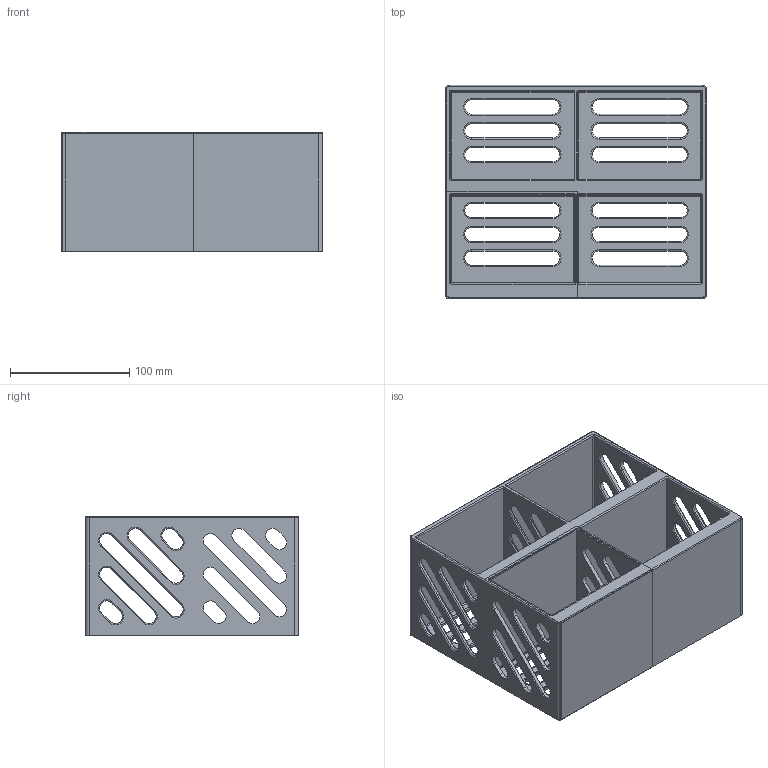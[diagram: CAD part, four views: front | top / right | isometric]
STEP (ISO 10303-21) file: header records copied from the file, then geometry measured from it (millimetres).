
FILE_DESCRIPTION((''),'2;1');
FILE_NAME('PRT0001','2023-08-26T15:06:08',('Leon'),(''),'CREO PARAMETRIC BY PTC INC, 2018050','CREO PARAMETRIC BY PTC INC, 2018050','');
FILE_SCHEMA(('CONFIG_CONTROL_DESIGN'));
Length unit declared in the file: millimetre
Products named in the file (1): PRT0001
Bounding box: 219 x 179 x 100 mm (x, y, z)
Volume: 434264.2 mm3; surface area: 350642.3 mm2
Topology: 1 solids, 2 shells, 580 faces, 1414 edges, 844 vertices
Faces by surface type: cylinder 262, plane 177, torus 104, sphere 19, cone 17, bspline 1
Entity records: 17248 total; most frequent: DIRECTION 3206, CARTESIAN_POINT 2953, ORIENTED_EDGE 2828, EDGE_CURVE 1414, AXIS2_PLACEMENT_3D 1220, VERTEX_POINT 844, VECTOR 766, LINE 766
